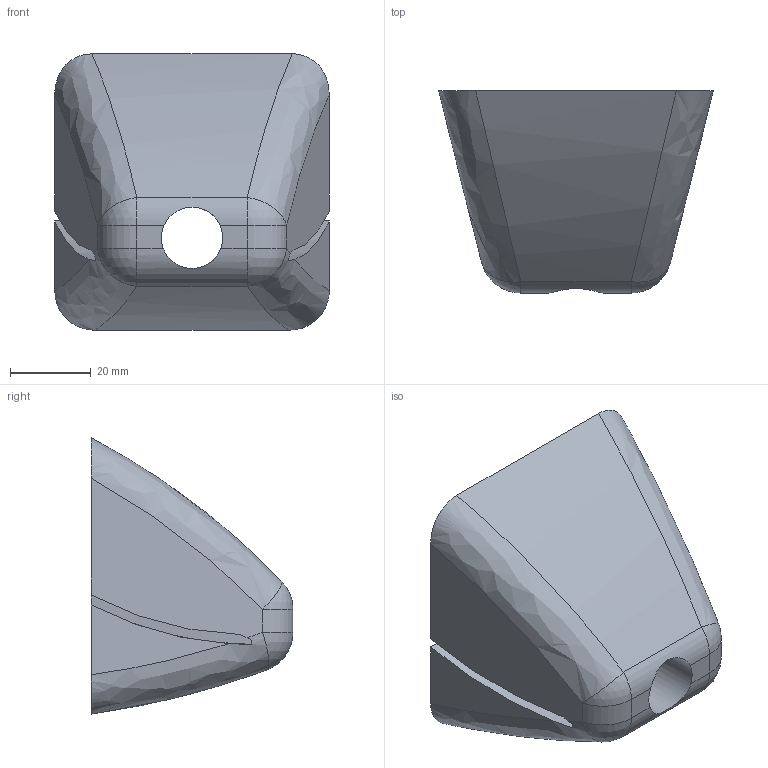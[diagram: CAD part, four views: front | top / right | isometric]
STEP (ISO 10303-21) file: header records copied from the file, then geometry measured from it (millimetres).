
FILE_DESCRIPTION(/* description */ (''),/* implementation_level */ '2;1');
FILE_NAME(/* name */ '1-15-1 Snout.step',/* time_stamp */ '2025-05-10T21:34:21+02:00',/* author */ (''),/* organization */ (''),/* preprocessor_version */ 'ST-DEVELOPER v20.1',/* originating_system */ 'Autodesk Translation Framework v14.4.0.0',/* authorisation */ '');
FILE_SCHEMA (('AUTOMOTIVE_DESIGN { 1 0 10303 214 3 1 1 }'));
Length unit declared in the file: millimetre
Products named in the file (1): 1-15-1 Snout
Bounding box: 68 x 50 x 68.46 mm (x, y, z)
Volume: 42954.5 mm3; surface area: 30584.1 mm2
Topology: 1 solids, 1 shells, 162 faces, 433 edges, 275 vertices
Faces by surface type: plane 68, cylinder 47, bspline 28, torus 12, sphere 6, cone 1
Full cylindrical faces by diameter (mm): 3.2 x2, 4.1 x4, 15.2 x1, 16.4 x1, 20 x1
Entity records: 6804 total; most frequent: CARTESIAN_POINT 2765, ORIENTED_EDGE 866, DIRECTION 812, EDGE_CURVE 433, AXIS2_PLACEMENT_3D 308, VERTEX_POINT 275, LINE 196, VECTOR 196
